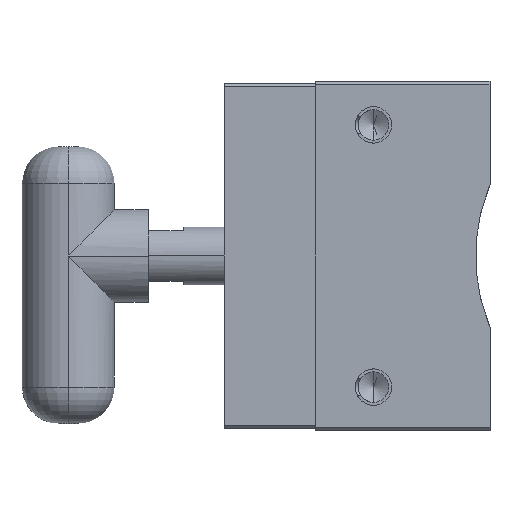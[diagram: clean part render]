
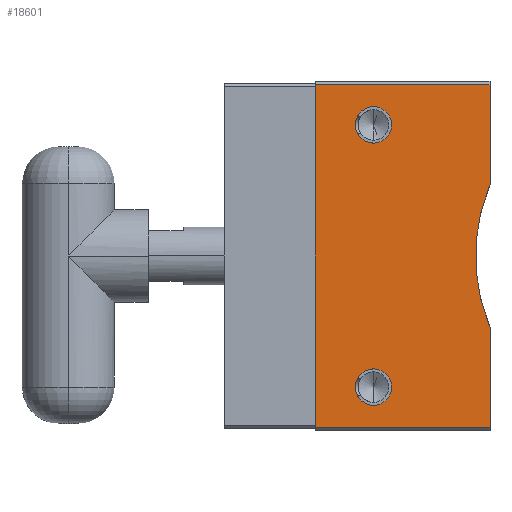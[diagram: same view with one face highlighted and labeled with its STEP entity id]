
A CAD part, left-side view. The second image highlights one B-rep face of the part: STEP entity #18601.
In plain terms, the highlighted planar face has unit normal (-1, 0, 0).
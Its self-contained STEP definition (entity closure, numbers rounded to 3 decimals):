
#700 = EDGE_LOOP ( 'NONE', ( #37336, #36247, #1935, #20402, #36292, #19015 ) ) ;
#704 = DIRECTION ( 'NONE',  ( 0., 0., 1. ) ) ;
#1044 = CARTESIAN_POINT ( 'NONE',  ( -15.6, 0., -24. ) ) ;
#1571 = DIRECTION ( 'NONE',  ( -1., 0., 0. ) ) ;
#1935 = ORIENTED_EDGE ( 'NONE', *, *, #28835, .T. ) ;
#2055 = DIRECTION ( 'NONE',  ( 0., 0., -1. ) ) ;
#2499 = CIRCLE ( 'NONE', #11555, 2.5 ) ;
#2516 = VERTEX_POINT ( 'NONE', #7166 ) ;
#2587 = DIRECTION ( 'NONE',  ( 0., 0., -1. ) ) ;
#2829 = CARTESIAN_POINT ( 'NONE',  ( -15.6, 16., 20.5 ) ) ;
#2907 = CIRCLE ( 'NONE', #16441, 2.5 ) ;
#3953 = EDGE_CURVE ( 'NONE', #36821, #34359, #2499, .T. ) ;
#4638 = EDGE_CURVE ( 'NONE', #2516, #32215, #37665, .T. ) ;
#5005 = DIRECTION ( 'NONE',  ( -1., 0., 0. ) ) ;
#5141 = CARTESIAN_POINT ( 'NONE',  ( -15.6, 0., -24. ) ) ;
#5651 = DIRECTION ( 'NONE',  ( 0., 0., 1. ) ) ;
#6051 = VECTOR ( 'NONE', #7498, 1000. ) ;
#6912 = DIRECTION ( 'NONE',  ( 0., 0., 1. ) ) ;
#7166 = CARTESIAN_POINT ( 'NONE',  ( -15.6, 0., 23.5 ) ) ;
#7498 = DIRECTION ( 'NONE',  ( 0., 0., 1. ) ) ;
#7615 = CARTESIAN_POINT ( 'NONE',  ( -15.6, 24., -23.5 ) ) ;
#8373 = CARTESIAN_POINT ( 'NONE',  ( -15.6, 24., 23.5 ) ) ;
#8912 = VECTOR ( 'NONE', #5651, 1000. ) ;
#9896 = DIRECTION ( 'NONE',  ( -1., 0., 0. ) ) ;
#10700 = DIRECTION ( 'NONE',  ( 0., 0., 1. ) ) ;
#10863 = PLANE ( 'NONE',  #29638 ) ;
#11555 = AXIS2_PLACEMENT_3D ( 'NONE', #15683, #30957, #6912 ) ;
#12213 = CARTESIAN_POINT ( 'NONE',  ( -15.6, 24., -24. ) ) ;
#13406 = FACE_BOUND ( 'NONE', #28199, .T. ) ;
#13672 = EDGE_LOOP ( 'NONE', ( #19198, #24596 ) ) ;
#13808 = CARTESIAN_POINT ( 'NONE',  ( -15.6, -23., 0. ) ) ;
#13875 = DIRECTION ( 'NONE',  ( 0., -1., 0. ) ) ;
#14214 = EDGE_CURVE ( 'NONE', #22823, #32440, #31050, .T. ) ;
#14836 = VERTEX_POINT ( 'NONE', #36167 ) ;
#15683 = CARTESIAN_POINT ( 'NONE',  ( -15.6, 16., -18. ) ) ;
#16181 = LINE ( 'NONE', #12213, #37019 ) ;
#16370 = CARTESIAN_POINT ( 'NONE',  ( -15.6, 16., 18. ) ) ;
#16441 = AXIS2_PLACEMENT_3D ( 'NONE', #16370, #5005, #10700 ) ;
#17241 = VECTOR ( 'NONE', #13875, 1000. ) ;
#17254 = VECTOR ( 'NONE', #17274, 1000. ) ;
#17274 = DIRECTION ( 'NONE',  ( 0., 1., 0. ) ) ;
#17587 = EDGE_CURVE ( 'NONE', #37644, #14836, #2907, .T. ) ;
#17663 = CARTESIAN_POINT ( 'NONE',  ( -15.6, 24., -24. ) ) ;
#17988 = CARTESIAN_POINT ( 'NONE',  ( -15.6, 16., -20.5 ) ) ;
#18519 = EDGE_CURVE ( 'NONE', #14836, #37644, #31913, .T. ) ;
#18601 = ADVANCED_FACE ( 'NONE', ( #13406, #30497, #28637 ), #10863, .F. ) ;
#19015 = ORIENTED_EDGE ( 'NONE', *, *, #4638, .T. ) ;
#19024 = CARTESIAN_POINT ( 'NONE',  ( -15.6, 0., 9.798 ) ) ;
#19198 = ORIENTED_EDGE ( 'NONE', *, *, #31419, .F. ) ;
#19519 = CARTESIAN_POINT ( 'NONE',  ( -15.6, 16., 18. ) ) ;
#20402 = ORIENTED_EDGE ( 'NONE', *, *, #14214, .F. ) ;
#20419 = LINE ( 'NONE', #1044, #6051 ) ;
#22134 = ORIENTED_EDGE ( 'NONE', *, *, #17587, .F. ) ;
#22823 = VERTEX_POINT ( 'NONE', #19024 ) ;
#23179 = CARTESIAN_POINT ( 'NONE',  ( -15.6, 0., -9.798 ) ) ;
#24333 = DIRECTION ( 'NONE',  ( 0., 0., 1. ) ) ;
#24596 = ORIENTED_EDGE ( 'NONE', *, *, #3953, .F. ) ;
#24797 = AXIS2_PLACEMENT_3D ( 'NONE', #13808, #37479, #2055 ) ;
#26038 = LINE ( 'NONE', #5141, #8912 ) ;
#26336 = EDGE_CURVE ( 'NONE', #33571, #31198, #36221, .T. ) ;
#27611 = CARTESIAN_POINT ( 'NONE',  ( -15.6, 16., -18. ) ) ;
#28199 = EDGE_LOOP ( 'NONE', ( #22134, #31967 ) ) ;
#28446 = CARTESIAN_POINT ( 'NONE',  ( -15.6, 16., -15.5 ) ) ;
#28637 = FACE_BOUND ( 'NONE', #13672, .T. ) ;
#28835 = EDGE_CURVE ( 'NONE', #31198, #32440, #26038, .T. ) ;
#29638 = AXIS2_PLACEMENT_3D ( 'NONE', #17663, #35273, #2587 ) ;
#30127 = EDGE_CURVE ( 'NONE', #22823, #2516, #20419, .T. ) ;
#30388 = CIRCLE ( 'NONE', #36593, 2.5 ) ;
#30497 = FACE_OUTER_BOUND ( 'NONE', #700, .T. ) ;
#30788 = DIRECTION ( 'NONE',  ( 0., 0., 1. ) ) ;
#30957 = DIRECTION ( 'NONE',  ( -1., 0., 0. ) ) ;
#31050 = CIRCLE ( 'NONE', #24797, 25. ) ;
#31198 = VERTEX_POINT ( 'NONE', #34480 ) ;
#31419 = EDGE_CURVE ( 'NONE', #34359, #36821, #30388, .T. ) ;
#31913 = CIRCLE ( 'NONE', #37821, 2.5 ) ;
#31967 = ORIENTED_EDGE ( 'NONE', *, *, #18519, .F. ) ;
#32215 = VERTEX_POINT ( 'NONE', #35670 ) ;
#32440 = VERTEX_POINT ( 'NONE', #23179 ) ;
#33571 = VERTEX_POINT ( 'NONE', #7615 ) ;
#34214 = EDGE_CURVE ( 'NONE', #33571, #32215, #16181, .T. ) ;
#34359 = VERTEX_POINT ( 'NONE', #28446 ) ;
#34480 = CARTESIAN_POINT ( 'NONE',  ( -15.6, 0., -23.5 ) ) ;
#34677 = CARTESIAN_POINT ( 'NONE',  ( -15.6, 24., -23.5 ) ) ;
#35273 = DIRECTION ( 'NONE',  ( 1., 0., 0. ) ) ;
#35670 = CARTESIAN_POINT ( 'NONE',  ( -15.6, 24., 23.5 ) ) ;
#36167 = CARTESIAN_POINT ( 'NONE',  ( -15.6, 16., 15.5 ) ) ;
#36221 = LINE ( 'NONE', #34677, #17241 ) ;
#36247 = ORIENTED_EDGE ( 'NONE', *, *, #26336, .T. ) ;
#36292 = ORIENTED_EDGE ( 'NONE', *, *, #30127, .T. ) ;
#36593 = AXIS2_PLACEMENT_3D ( 'NONE', #27611, #9896, #704 ) ;
#36821 = VERTEX_POINT ( 'NONE', #17988 ) ;
#37019 = VECTOR ( 'NONE', #24333, 1000. ) ;
#37336 = ORIENTED_EDGE ( 'NONE', *, *, #34214, .F. ) ;
#37479 = DIRECTION ( 'NONE',  ( -1., 0., 0. ) ) ;
#37644 = VERTEX_POINT ( 'NONE', #2829 ) ;
#37665 = LINE ( 'NONE', #8373, #17254 ) ;
#37821 = AXIS2_PLACEMENT_3D ( 'NONE', #19519, #1571, #30788 ) ;
